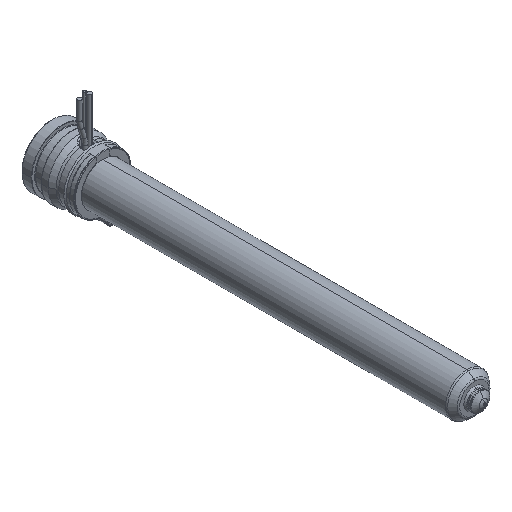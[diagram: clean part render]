
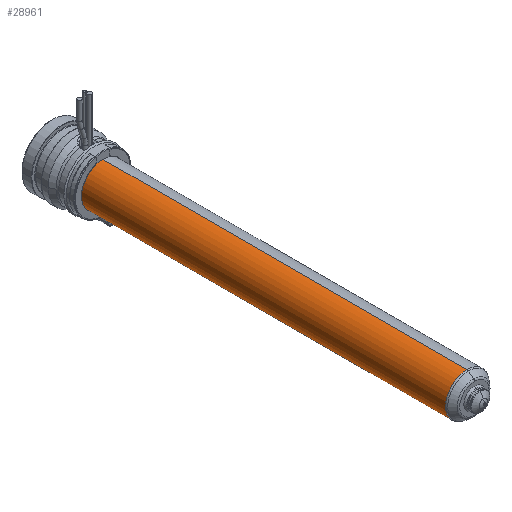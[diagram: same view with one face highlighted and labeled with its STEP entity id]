
A CAD part, isometric view. The second image highlights one B-rep face of the part: STEP entity #28961.
In plain terms, the highlighted cylindrical face has radius 9 mm (diameter 18 mm), a partial arc.
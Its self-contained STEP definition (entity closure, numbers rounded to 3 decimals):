
#28350=CARTESIAN_POINT('',(0.,-175.836,0.));
#28351=DIRECTION('',(0.,-1.,0.));
#28352=DIRECTION('',(0.,0.,1.));
#28353=AXIS2_PLACEMENT_3D('',#28350,#28351,#28352);
#28358=CARTESIAN_POINT('',(0.,-22.,0.));
#28359=DIRECTION('',(0.,-1.,0.));
#28360=DIRECTION('',(0.,0.,1.));
#28361=AXIS2_PLACEMENT_3D('',#28358,#28359,#28360);
#28366=DIRECTION('',(0.,-1.,0.));
#28367=VECTOR('',#28366,153.836);
#28368=CARTESIAN_POINT('',(0.,-22.,9.));
#28369=LINE('',#28368,#28367);
#28381=DIRECTION('',(0.,-1.,0.));
#28382=VECTOR('',#28381,153.836);
#28383=CARTESIAN_POINT('',(0.,-22.,-9.));
#28384=LINE('',#28383,#28382);
#28578=CARTESIAN_POINT('',(0.,-22.,9.));
#28579=CARTESIAN_POINT('',(0.,-175.836,9.));
#28580=VERTEX_POINT('',#28578);
#28581=VERTEX_POINT('',#28579);
#28604=CARTESIAN_POINT('',(0.,-22.,-9.));
#28605=CARTESIAN_POINT('',(0.,-175.836,-9.));
#28606=VERTEX_POINT('',#28604);
#28607=VERTEX_POINT('',#28605);
#28947=CARTESIAN_POINT('',(0.,-9.7,0.));
#28948=DIRECTION('',(0.,-1.,0.));
#28949=DIRECTION('',(0.,0.,1.));
#28950=AXIS2_PLACEMENT_3D('',#28947,#28948,#28949);
#28951=CYLINDRICAL_SURFACE('',#28950,9.);
#28953=ORIENTED_EDGE('',*,*,#28952,.T.);
#28954=ORIENTED_EDGE('',*,*,#28942,.T.);
#28956=ORIENTED_EDGE('',*,*,#28955,.F.);
#28958=ORIENTED_EDGE('',*,*,#28957,.F.);
#28959=EDGE_LOOP('',(#28953,#28954,#28956,#28958));
#28960=FACE_OUTER_BOUND('',#28959,.F.);
#28961=ADVANCED_FACE('',(#28960),#28951,.T.);
#28354=CIRCLE('',#28353,9.);
#28362=CIRCLE('',#28361,9.);
#28942=EDGE_CURVE('',#28581,#28607,#28354,.T.);
#28952=EDGE_CURVE('',#28580,#28581,#28369,.T.);
#28955=EDGE_CURVE('',#28606,#28607,#28384,.T.);
#28957=EDGE_CURVE('',#28580,#28606,#28362,.T.);
